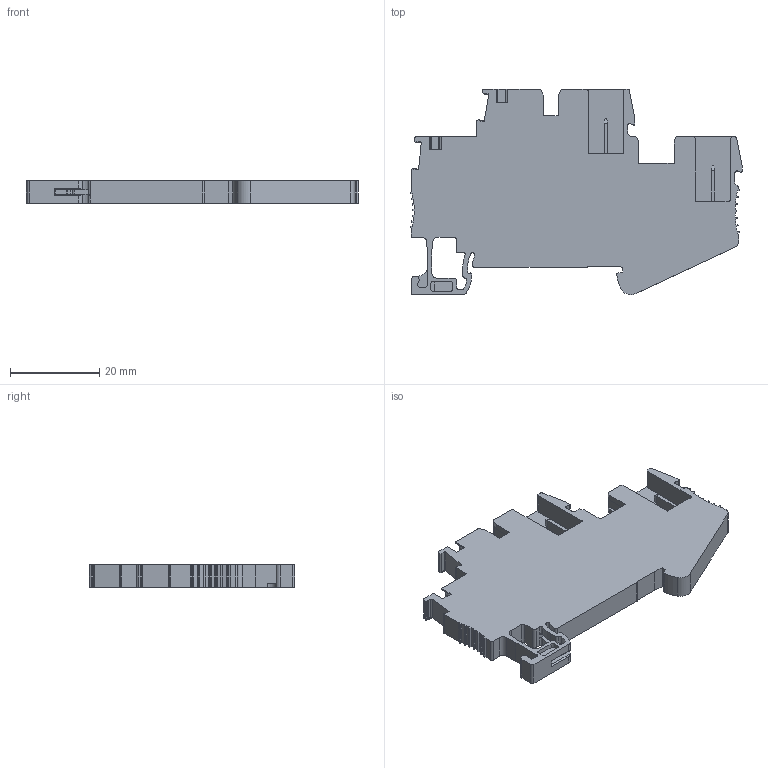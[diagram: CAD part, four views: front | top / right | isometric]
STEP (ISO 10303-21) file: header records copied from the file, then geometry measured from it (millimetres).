
FILE_DESCRIPTION (( 'STEP AP214' ), '1' );
FILE_NAME ('VPRTT-2.5-2P.STEP', '2026-03-30T14:26:45', ( '' ), ( '' ), 'SwSTEP 2.0', 'SolidWorks 2022', '' );
FILE_SCHEMA (( 'AUTOMOTIVE_DESIGN' ));
Length unit declared in the file: millimetre
Products named in the file (1): VPRTT-2.5-2P
Bounding box: 74.36 x 46.05 x 5.15 mm (x, y, z)
Volume: 10957.2 mm3; surface area: 7598.4 mm2
Topology: 1 solids, 1 shells, 488 faces, 1396 edges, 917 vertices
Faces by surface type: plane 321, cylinder 165, bspline 2
Entity records: 16594 total; most frequent: CARTESIAN_POINT 2859, ORIENTED_EDGE 2792, DIRECTION 2680, EDGE_CURVE 1396, LINE 1060, VECTOR 1060, VERTEX_POINT 917, AXIS2_PLACEMENT_3D 810
